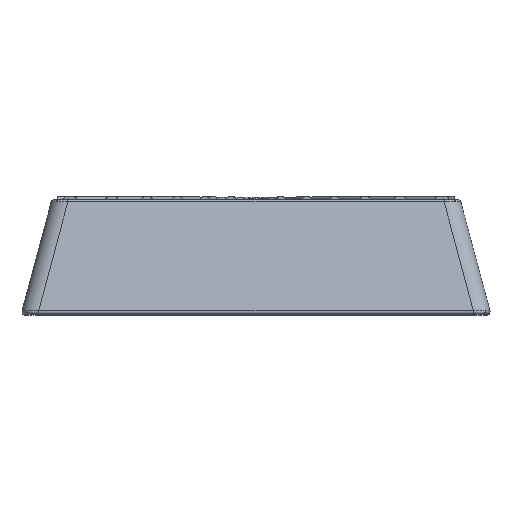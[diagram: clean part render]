
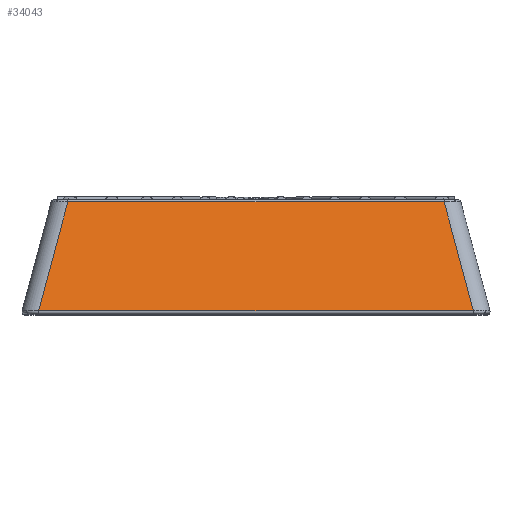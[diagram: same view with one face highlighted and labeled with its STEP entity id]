
A CAD part, top view. The second image highlights one B-rep face of the part: STEP entity #34043.
In plain terms, the highlighted planar face has unit normal (0, 0.259, 0.966).
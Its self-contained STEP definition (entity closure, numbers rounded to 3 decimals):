
#2815 = EDGE_LOOP ( 'NONE', ( #11132, #23838, #7815, #38369 ) ) ;
#5109 = VERTEX_POINT ( 'NONE', #31778 ) ;
#6606 = LINE ( 'NONE', #26537, #24686 ) ;
#7815 = ORIENTED_EDGE ( 'NONE', *, *, #34180, .T. ) ;
#11132 = ORIENTED_EDGE ( 'NONE', *, *, #31306, .T. ) ;
#11554 = EDGE_CURVE ( 'NONE', #31291, #5109, #37142, .T. ) ;
#12449 = CARTESIAN_POINT ( 'NONE',  ( 32.843, 19.629, 35.74 ) ) ;
#16376 = AXIS2_PLACEMENT_3D ( 'NONE', #26612, #36464, #20172 ) ;
#17196 = PLANE ( 'NONE',  #16376 ) ;
#19661 = DIRECTION ( 'NONE',  ( -0.251, 0.935, -0.251 ) ) ;
#20087 = DIRECTION ( 'NONE',  ( -1., 0., 0. ) ) ;
#20172 = DIRECTION ( 'NONE',  ( 0., -0.966, 0.259 ) ) ;
#21661 = DIRECTION ( 'NONE',  ( -0.251, -0.935, 0.251 ) ) ;
#23838 = ORIENTED_EDGE ( 'NONE', *, *, #25509, .T. ) ;
#24095 = DIRECTION ( 'NONE',  ( 1., 0., 0. ) ) ;
#24686 = VECTOR ( 'NONE', #20087, 1000. ) ;
#25509 = EDGE_CURVE ( 'NONE', #37295, #37596, #6606, .T. ) ;
#26406 = FACE_OUTER_BOUND ( 'NONE', #2815, .T. ) ;
#26537 = CARTESIAN_POINT ( 'NONE',  ( 41., 19.629, 35.74 ) ) ;
#26612 = CARTESIAN_POINT ( 'NONE',  ( 41., 0., 41. ) ) ;
#27641 = VECTOR ( 'NONE', #24095, 1000. ) ;
#28051 = VECTOR ( 'NONE', #21661, 1000. ) ;
#31291 = VERTEX_POINT ( 'NONE', #35954 ) ;
#31306 = EDGE_CURVE ( 'NONE', #5109, #37295, #41747, .T. ) ;
#31718 = LINE ( 'NONE', #35351, #28051 ) ;
#31778 = CARTESIAN_POINT ( 'NONE',  ( 37.934, 0.629, 40.831 ) ) ;
#31889 = CARTESIAN_POINT ( 'NONE',  ( 38.284, -0.679, 41.182 ) ) ;
#32805 = VECTOR ( 'NONE', #19661, 1000. ) ;
#34043 = ADVANCED_FACE ( 'NONE', ( #26406 ), #17196, .T. ) ;
#34180 = EDGE_CURVE ( 'NONE', #37596, #31291, #31718, .T. ) ;
#35351 = CARTESIAN_POINT ( 'NONE',  ( -33.136, 18.534, 36.034 ) ) ;
#35954 = CARTESIAN_POINT ( 'NONE',  ( -37.934, 0.629, 40.831 ) ) ;
#36288 = CARTESIAN_POINT ( 'NONE',  ( 38.102, 0.629, 40.831 ) ) ;
#36464 = DIRECTION ( 'NONE',  ( 0., 0.259, 0.966 ) ) ;
#37142 = LINE ( 'NONE', #36288, #27641 ) ;
#37295 = VERTEX_POINT ( 'NONE', #12449 ) ;
#37596 = VERTEX_POINT ( 'NONE', #38355 ) ;
#38355 = CARTESIAN_POINT ( 'NONE',  ( -32.843, 19.629, 35.74 ) ) ;
#38369 = ORIENTED_EDGE ( 'NONE', *, *, #11554, .T. ) ;
#41747 = LINE ( 'NONE', #31889, #32805 ) ;
